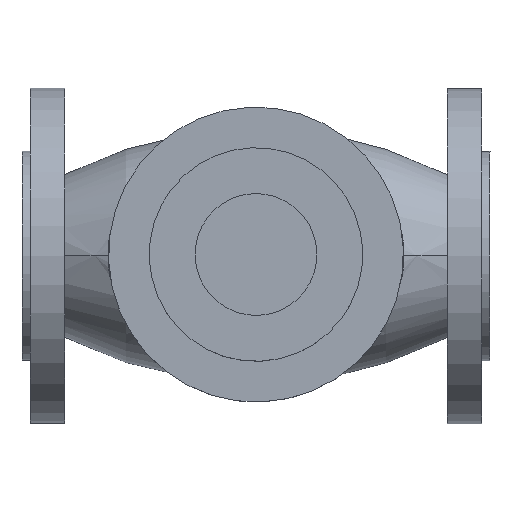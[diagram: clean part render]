
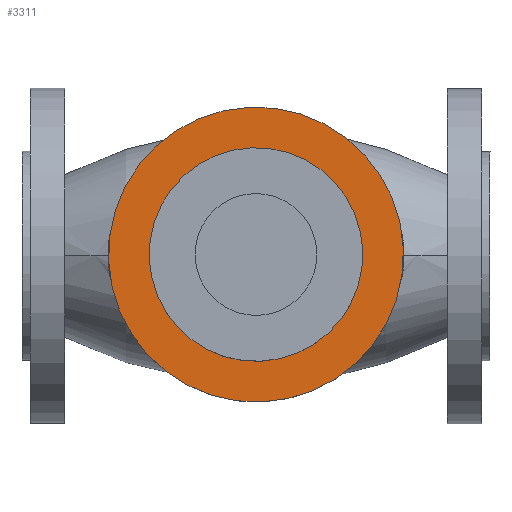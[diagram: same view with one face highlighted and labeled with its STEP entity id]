
A CAD part, top view. The second image highlights one B-rep face of the part: STEP entity #3311.
In plain terms, the highlighted planar face has unit normal (0, 0, 1).
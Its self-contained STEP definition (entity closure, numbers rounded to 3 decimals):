
#186 = DIRECTION ( 'NONE',  ( 0., 1., 0. ) ) ;
#688 = ORIENTED_EDGE ( 'NONE', *, *, #17142, .T. ) ;
#712 = VERTEX_POINT ( 'NONE', #18568 ) ;
#1162 = AXIS2_PLACEMENT_3D ( 'NONE', #17299, #4258, #15872 ) ;
#2433 = AXIS2_PLACEMENT_3D ( 'NONE', #18525, #11292, #5493 ) ;
#2463 = FACE_BOUND ( 'NONE', #16662, .T. ) ;
#2688 = EDGE_CURVE ( 'NONE', #15817, #712, #5403, .T. ) ;
#2815 = CARTESIAN_POINT ( 'NONE',  ( 5.519, -283.506, -34. ) ) ;
#2959 = AXIS2_PLACEMENT_3D ( 'NONE', #15443, #12571, #16585 ) ;
#3311 = ADVANCED_FACE ( 'NONE', ( #2463, #14064 ), #6827, .T. ) ;
#3420 = CARTESIAN_POINT ( 'NONE',  ( 72.5, -255.761, -34. ) ) ;
#3980 = VERTEX_POINT ( 'NONE', #18316 ) ;
#4258 = DIRECTION ( 'NONE',  ( 0., 0., 1. ) ) ;
#5403 = CIRCLE ( 'NONE', #9362, 52.5 ) ;
#5493 = DIRECTION ( 'NONE',  ( 0., -1., 0. ) ) ;
#5525 = EDGE_CURVE ( 'NONE', #712, #15817, #18821, .T. ) ;
#5971 = EDGE_LOOP ( 'NONE', ( #16741, #688 ) ) ;
#6457 = DIRECTION ( 'NONE',  ( 0., 0., 1. ) ) ;
#6827 = PLANE ( 'NONE',  #2433 ) ;
#6983 = VERTEX_POINT ( 'NONE', #2815 ) ;
#8350 = CARTESIAN_POINT ( 'NONE',  ( 121.004, -235.67, -34. ) ) ;
#9057 = CIRCLE ( 'NONE', #1162, 72.5 ) ;
#9362 = AXIS2_PLACEMENT_3D ( 'NONE', #3420, #6457, #12067 ) ;
#11235 = EDGE_CURVE ( 'NONE', #6983, #3980, #17236, .T. ) ;
#11292 = DIRECTION ( 'NONE',  ( 0., 0., 1. ) ) ;
#11520 = AXIS2_PLACEMENT_3D ( 'NONE', #15962, #14649, #186 ) ;
#12067 = DIRECTION ( 'NONE',  ( 0., 1., 0. ) ) ;
#12311 = ORIENTED_EDGE ( 'NONE', *, *, #2688, .F. ) ;
#12571 = DIRECTION ( 'NONE',  ( 0., 0., 1. ) ) ;
#14064 = FACE_OUTER_BOUND ( 'NONE', #5971, .T. ) ;
#14649 = DIRECTION ( 'NONE',  ( 0., 0., 1. ) ) ;
#15443 = CARTESIAN_POINT ( 'NONE',  ( 72.5, -255.761, -34. ) ) ;
#15817 = VERTEX_POINT ( 'NONE', #8350 ) ;
#15872 = DIRECTION ( 'NONE',  ( -0.924, -0.383, 0. ) ) ;
#15962 = CARTESIAN_POINT ( 'NONE',  ( 72.5, -255.761, -34. ) ) ;
#16214 = ORIENTED_EDGE ( 'NONE', *, *, #5525, .F. ) ;
#16585 = DIRECTION ( 'NONE',  ( -0.924, -0.383, 0. ) ) ;
#16662 = EDGE_LOOP ( 'NONE', ( #16214, #12311 ) ) ;
#16741 = ORIENTED_EDGE ( 'NONE', *, *, #11235, .T. ) ;
#17142 = EDGE_CURVE ( 'NONE', #3980, #6983, #9057, .T. ) ;
#17236 = CIRCLE ( 'NONE', #2959, 72.5 ) ;
#17299 = CARTESIAN_POINT ( 'NONE',  ( 72.5, -255.761, -34. ) ) ;
#18316 = CARTESIAN_POINT ( 'NONE',  ( 139.481, -228.017, -34. ) ) ;
#18525 = CARTESIAN_POINT ( 'NONE',  ( 22.517, -276.465, -34. ) ) ;
#18568 = CARTESIAN_POINT ( 'NONE',  ( 23.996, -275.852, -34. ) ) ;
#18821 = CIRCLE ( 'NONE', #11520, 52.5 ) ;
